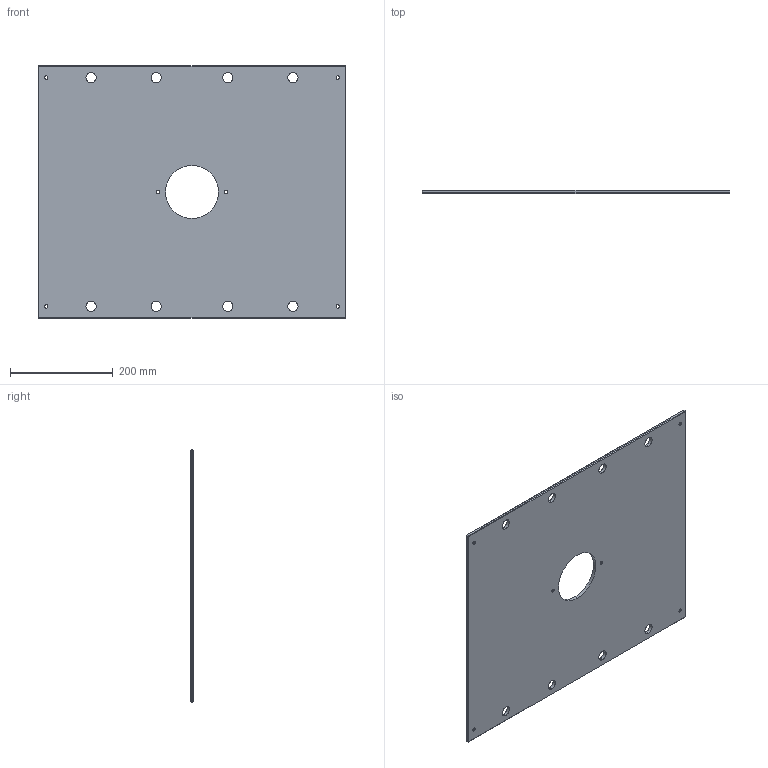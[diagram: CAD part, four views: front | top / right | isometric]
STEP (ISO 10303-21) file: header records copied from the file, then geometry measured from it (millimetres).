
FILE_DESCRIPTION (( 'STEP AP214' ), '1' );
FILE_NAME ('ME-0619-CH-1924.STEP', '2020-02-11T18:20:04', ( '' ), ( '' ), 'SwSTEP 2.0', 'SolidWorks 2018', '' );
FILE_SCHEMA (( 'AUTOMOTIVE_DESIGN' ));
Length unit declared in the file: inch
Products named in the file (1): ME-0619-CH-1924
Bounding box: 600.08 x 6.35 x 492.12 mm (x, y, z)
Volume: 1800164.3 mm3; surface area: 585010.3 mm2
Topology: 1 solids, 1 shells, 68 faces, 162 edges, 96 vertices
Faces by surface type: cylinder 30, plane 26, cone 12
Entity records: 2050 total; most frequent: DIRECTION 372, CARTESIAN_POINT 327, ORIENTED_EDGE 324, EDGE_CURVE 162, AXIS2_PLACEMENT_3D 141, EDGE_LOOP 98, VERTEX_POINT 96, VECTOR 90
